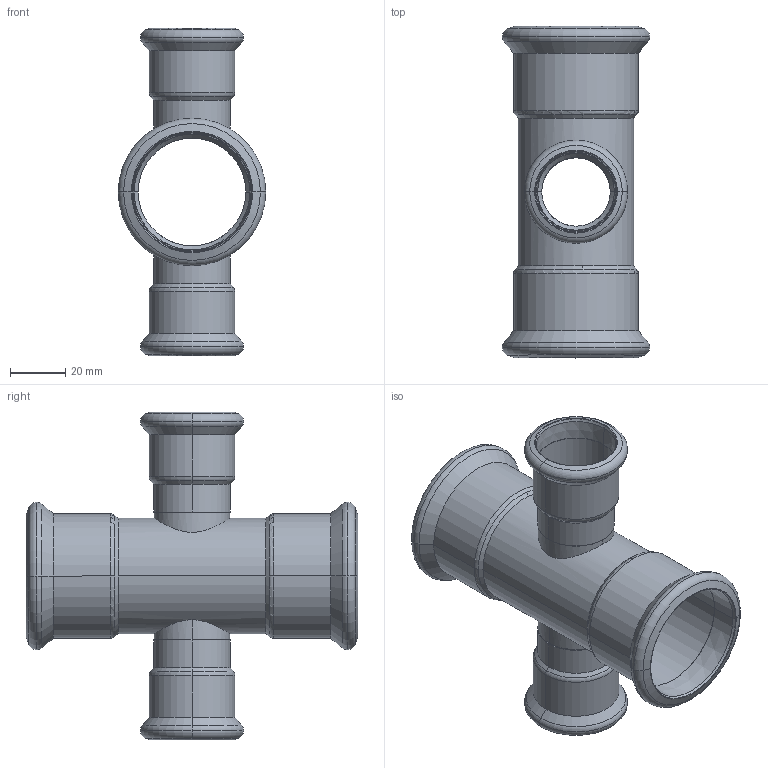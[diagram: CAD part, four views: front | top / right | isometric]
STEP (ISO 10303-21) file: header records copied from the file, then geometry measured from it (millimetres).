
FILE_DESCRIPTION(('CoCreate Modeling STEP Export'),'2;1');
FILE_NAME('C1447 42x28x42x28.stp','2014-11-12T17:13:00',(''),(''),'CoCreate Modeling STEP processor for AP214 (Solid Model)','CoCreate Modeling 17.00A 17-Jun-2010 (C) Parametric Technology GmbH','');
FILE_SCHEMA(('AUTOMOTIVE_DESIGN { 1 0 10303 214 1 1 1 1 }'));
Length unit declared in the file: millimetre
Products named in the file (1): C1447_42x28x42x28
Bounding box: 53.55 x 120.4 x 119 mm (x, y, z)
Volume: 43362.7 mm3; surface area: 47574.9 mm2
Topology: 1 solids, 1 shells, 136 faces, 294 edges, 158 vertices
Faces by surface type: cone 52, torus 48, cylinder 32, bspline 4
Entity records: 7886 total; most frequent: CARTESIAN_POINT 5441, ORIENTED_EDGE 588, DIRECTION 434, EDGE_CURVE 294, AXIS2_PLACEMENT_3D 175, VERTEX_POINT 158, EDGE_LOOP 140, FACE_OUTER_BOUND 136
